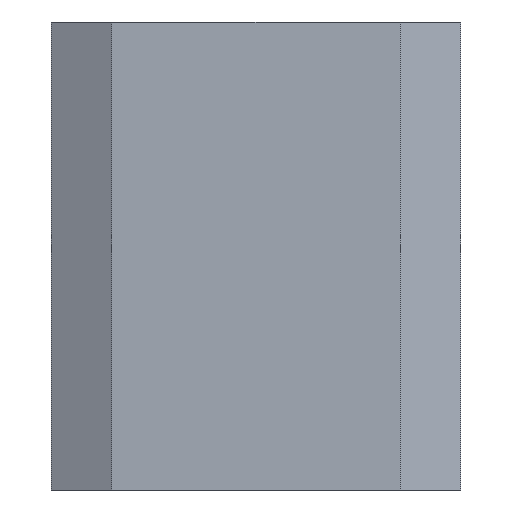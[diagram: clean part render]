
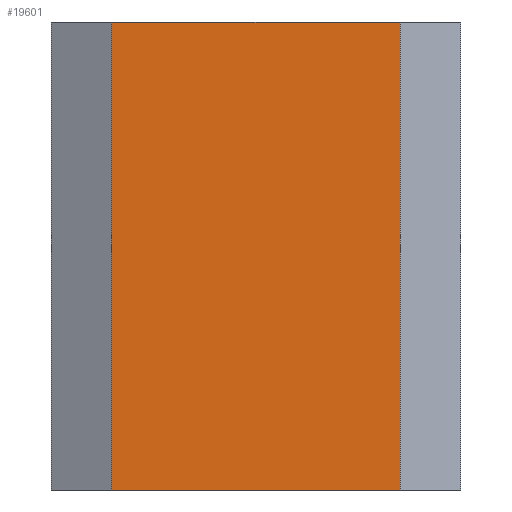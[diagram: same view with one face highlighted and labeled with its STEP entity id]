
A CAD part, left-side view. The second image highlights one B-rep face of the part: STEP entity #19601.
In plain terms, the highlighted planar face has unit normal (-1, 0, 0).
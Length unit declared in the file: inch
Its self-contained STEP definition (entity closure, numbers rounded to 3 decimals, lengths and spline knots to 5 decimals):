
#1965=DIRECTION('',(0.,0.,-1.));
#1966=VECTOR('',#1965,4.99016);
#1967=CARTESIAN_POINT('',(-0.47244,-1.53543,
2.49508));
#1968=LINE('',#1967,#1966);
#1969=DIRECTION('',(0.,0.,1.));
#1970=VECTOR('',#1969,4.99016);
#1971=CARTESIAN_POINT('',(-0.47244,1.53543,
-2.49508));
#1972=LINE('',#1971,#1970);
#1989=DIRECTION('',(0.,1.,0.));
#1990=VECTOR('',#1989,3.07087);
#1991=CARTESIAN_POINT('',(-0.47244,-1.53543,
-2.49508));
#1992=LINE('',#1991,#1990);
#2017=DIRECTION('',(0.,-1.,0.));
#2018=VECTOR('',#2017,3.07087);
#2019=CARTESIAN_POINT('',(-0.47244,1.53543,
2.49508));
#2020=LINE('',#2019,#2018);
#17021=CARTESIAN_POINT('',(-0.47244,1.53543,
2.49508));
#17022=CARTESIAN_POINT('',(-0.47244,-1.53543,
2.49508));
#17023=VERTEX_POINT('',#17021);
#17024=VERTEX_POINT('',#17022);
#17057=CARTESIAN_POINT('',(-0.47244,1.53543,
-2.49508));
#17059=VERTEX_POINT('',#17057);
#17071=CARTESIAN_POINT('',(-0.47244,-1.53543,
-2.49508));
#17072=VERTEX_POINT('',#17071);
#19587=CARTESIAN_POINT('',(-0.47244,1.53543,
-2.38681));
#19588=DIRECTION('',(-1.,0.,0.));
#19589=DIRECTION('',(0.,-1.,0.));
#19590=AXIS2_PLACEMENT_3D('',#19587,#19588,#19589);
#19591=PLANE('',#19590);
#19593=ORIENTED_EDGE('',*,*,#19592,.T.);
#19595=ORIENTED_EDGE('',*,*,#19594,.T.);
#19596=ORIENTED_EDGE('',*,*,#19577,.T.);
#19598=ORIENTED_EDGE('',*,*,#19597,.T.);
#19599=EDGE_LOOP('',(#19593,#19595,#19596,#19598));
#19600=FACE_OUTER_BOUND('',#19599,.F.);
#19601=ADVANCED_FACE('',(#19600),#19591,.T.);
#19577=EDGE_CURVE('',#17059,#17023,#1972,.T.);
#19592=EDGE_CURVE('',#17024,#17072,#1968,.T.);
#19594=EDGE_CURVE('',#17072,#17059,#1992,.T.);
#19597=EDGE_CURVE('',#17023,#17024,#2020,.T.);
